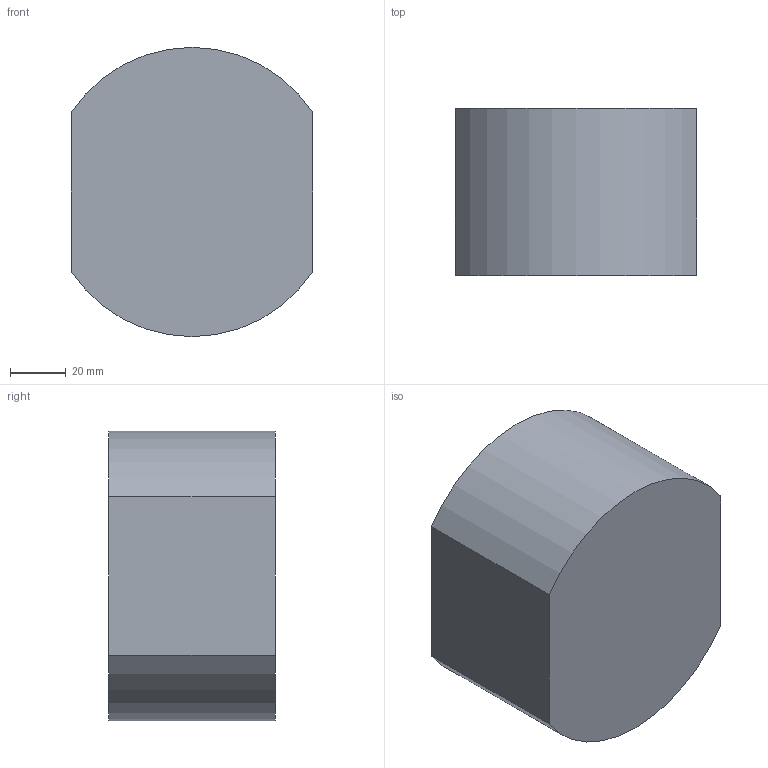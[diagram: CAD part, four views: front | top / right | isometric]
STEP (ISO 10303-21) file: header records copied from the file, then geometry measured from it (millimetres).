
FILE_DESCRIPTION (( 'STEP AP214' ), '1' );
FILE_NAME ('BROV2-HEAVY-P-BUOYANCY-X1B1.STEP', '2018-06-19T21:48:35', ( '' ), ( '' ), 'SwSTEP 2.0', 'SolidWorks 2016', '' );
FILE_SCHEMA (( 'AUTOMOTIVE_DESIGN' ));
Length unit declared in the file: metre
Products named in the file (1): BROV2-HEAVY-P-BUOYANCY-X1B1
Bounding box: 87 x 60 x 104 mm (x, y, z)
Volume: 470262.7 mm3; surface area: 34880.2 mm2
Topology: 1 solids, 1 shells, 7 faces, 15 edges, 10 vertices
Faces by surface type: plane 4, cylinder 3
Entity records: 229 total; most frequent: DIRECTION 37, CARTESIAN_POINT 33, ORIENTED_EDGE 30, EDGE_CURVE 15, AXIS2_PLACEMENT_3D 14, VERTEX_POINT 10, VECTOR 9, LINE 9
